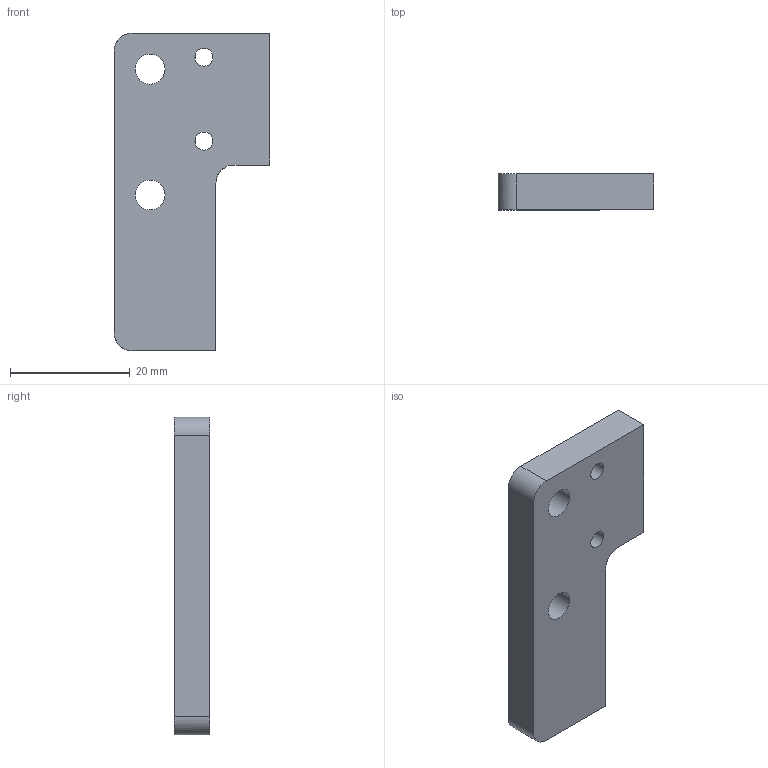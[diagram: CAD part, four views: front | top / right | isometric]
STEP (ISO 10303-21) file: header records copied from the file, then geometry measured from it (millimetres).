
FILE_DESCRIPTION(/* description */ (''),/* implementation_level */ '2;1');
FILE_NAME(/* name */ '8.x-drive#8.9#la-mpk-6',/* time_stamp */ '2014-12-01T20:18:42+01:00',/* author */ (''),/* organization */ (''),/* preprocessor_version */ 'ST-DEVELOPER v14',/* originating_system */ '',/* authorisation */ '');
FILE_SCHEMA (('AUTOMOTIVE_DESIGN'));
Length unit declared in the file: millimetre
Products named in the file (1): Document
Bounding box: 26 x 6 x 53 mm (x, y, z)
Volume: 6261 mm3; surface area: 3313.5 mm2
Topology: 1 solids, 1 shells, 19 faces, 51 edges, 34 vertices
Faces by surface type: bspline 17, plane 2
Entity records: 1297 total; most frequent: CARTESIAN_POINT 674, ORIENTED_EDGE 102, PCURVE 102, DEFINITIONAL_REPRESENTATION 102, B_SPLINE_CURVE_WITH_KNOTS 68, SURFACE_CURVE 51, EDGE_CURVE 51, VERTEX_POINT 34
